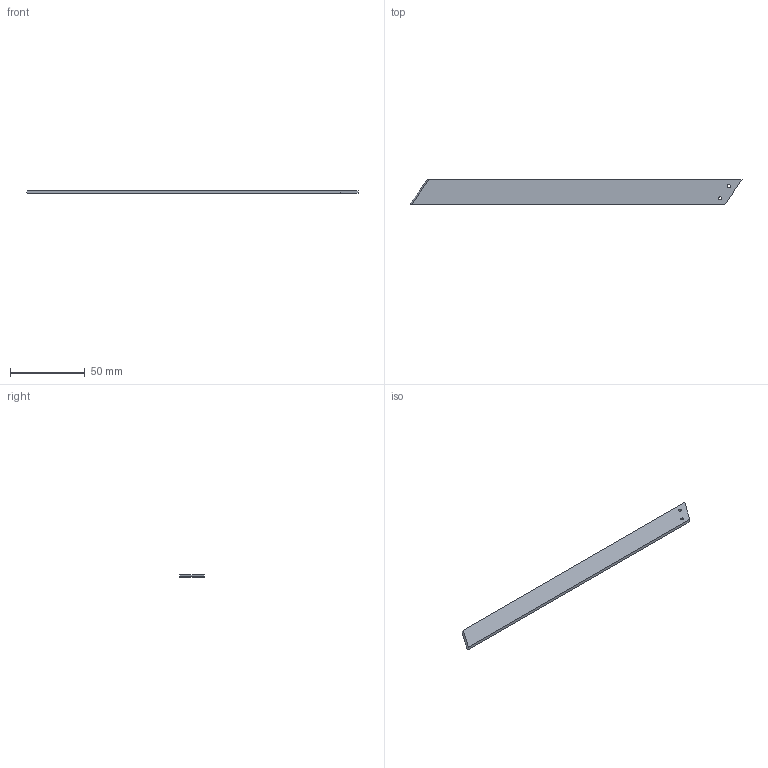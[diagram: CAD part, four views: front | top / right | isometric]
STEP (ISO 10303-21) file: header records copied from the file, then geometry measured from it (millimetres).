
FILE_DESCRIPTION (( 'STEP AP214' ), '1' );
FILE_NAME ('SC61.STEP', '2016-02-26T17:40:02', ( '' ), ( '' ), 'SwSTEP 2.0', 'SolidWorks 2012', '' );
FILE_SCHEMA (( 'AUTOMOTIVE_DESIGN' ));
Length unit declared in the file: millimetre
Products named in the file (1): SC61
Bounding box: 221.98 x 16.38 x 2 mm (x, y, z)
Volume: 6865.3 mm3; surface area: 7806.6 mm2
Topology: 1 solids, 1 shells, 11 faces, 27 edges, 18 vertices
Faces by surface type: plane 7, cylinder 4
Entity records: 371 total; most frequent: DIRECTION 59, CARTESIAN_POINT 57, ORIENTED_EDGE 54, EDGE_CURVE 27, AXIS2_PLACEMENT_3D 20, VECTOR 19, LINE 19, VERTEX_POINT 18
